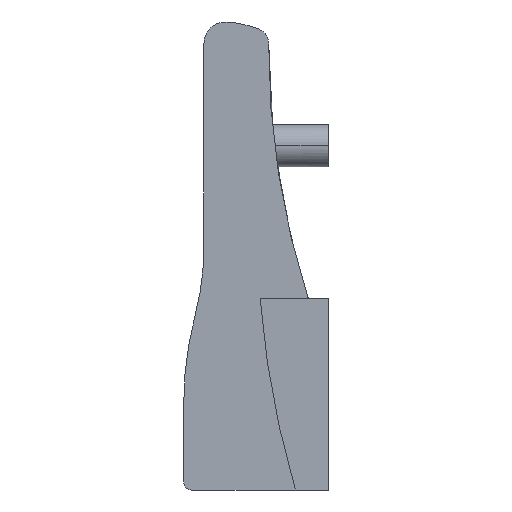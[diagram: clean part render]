
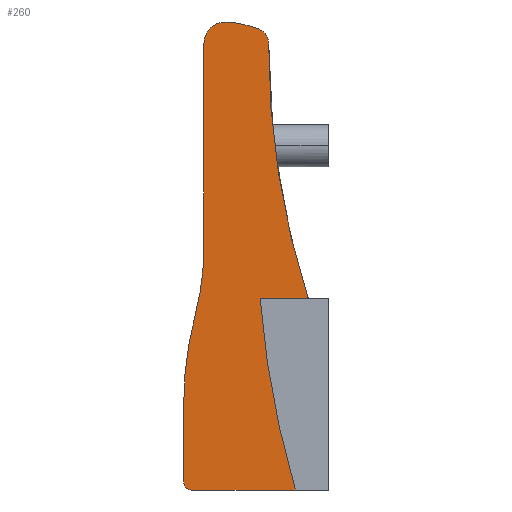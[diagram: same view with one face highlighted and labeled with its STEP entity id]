
A CAD part, front view. The second image highlights one B-rep face of the part: STEP entity #260.
In plain terms, the highlighted planar face has unit normal (0, -1, 0).
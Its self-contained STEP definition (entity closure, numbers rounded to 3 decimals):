
#5 = AXIS2_PLACEMENT_3D ( 'NONE', #1578, #1584, #1585 ) ;
#100 = AXIS2_PLACEMENT_3D ( 'NONE', #1997, #1998, #1999 ) ;
#142 = VECTOR ( 'NONE', #1954, 1000. ) ;
#153 = CIRCLE ( 'NONE', #100, 300. ) ;
#167 = EDGE_CURVE ( 'NONE', #1504, #1443, #1023, .T. ) ;
#169 = EDGE_CURVE ( 'NONE', #1443, #1444, #418, .T. ) ;
#171 = EDGE_CURVE ( 'NONE', #1444, #1442, #1104, .T. ) ;
#173 = EDGE_CURVE ( 'NONE', #1442, #1450, #1115, .T. ) ;
#175 = EDGE_CURVE ( 'NONE', #1450, #1441, #556, .T. ) ;
#176 = EDGE_CURVE ( 'NONE', #1441, #1439, #1112, .T. ) ;
#179 = EDGE_CURVE ( 'NONE', #1439, #1440, #1029, .T. ) ;
#180 = EDGE_CURVE ( 'NONE', #1440, #1512, #1057, .T. ) ;
#189 = EDGE_CURVE ( 'NONE', #1430, #1504, #624, .T. ) ;
#192 = EDGE_CURVE ( 'NONE', #1474, #1430, #1086, .T. ) ;
#227 = EDGE_CURVE ( 'NONE', #1512, #1516, #1078, .T. ) ;
#260 = ADVANCED_FACE ( 'NONE', ( #1581 ), #1582, .T. ) ;
#358 = EDGE_CURVE ( 'NONE', #1467, #1474, #1952, .T. ) ;
#365 = EDGE_CURVE ( 'NONE', #1516, #1467, #153, .T. ) ;
#390 = DIRECTION ( 'NONE',  ( 1., 0., 0. ) ) ;
#391 = DIRECTION ( 'NONE',  ( 1., 0., 0. ) ) ;
#392 = DIRECTION ( 'NONE',  ( 0., -1., 0. ) ) ;
#394 = CARTESIAN_POINT ( 'NONE',  ( 322.2, -2.5, 78.5 ) ) ;
#401 = CARTESIAN_POINT ( 'NONE',  ( -50.5, -2.5, -16.6 ) ) ;
#402 = DIRECTION ( 'NONE',  ( 0., 1., 0. ) ) ;
#409 = DIRECTION ( 'NONE',  ( 1., 0., 0. ) ) ;
#410 = CARTESIAN_POINT ( 'NONE',  ( -40.138, -2.5, 113.472 ) ) ;
#415 = DIRECTION ( 'NONE',  ( -1., 0., 0. ) ) ;
#418 = LINE ( 'NONE', #573, #1051 ) ;
#419 = CARTESIAN_POINT ( 'NONE',  ( -50.5, -2.5, -19.6 ) ) ;
#499 = EDGE_LOOP ( 'NONE', ( #1375, #1277, #1278, #1276, #1169, #1144, #1206, #1219, #1222, #1401, #1373, #1361, #1394 ) ) ;
#524 = DIRECTION ( 'NONE',  ( 1., 0., 0. ) ) ;
#535 = DIRECTION ( 'NONE',  ( 0., 1., 0. ) ) ;
#552 = CARTESIAN_POINT ( 'NONE',  ( -46., -2.5, 70.162 ) ) ;
#555 = DIRECTION ( 'NONE',  ( 0., 0., 1. ) ) ;
#556 = LINE ( 'NONE', #552, #1064 ) ;
#560 = DIRECTION ( 'NONE',  ( 0., 1., 0. ) ) ;
#561 = CARTESIAN_POINT ( 'NONE',  ( 79.3, -2.5, 11.675 ) ) ;
#562 = DIRECTION ( 'NONE',  ( 1., 0., 0. ) ) ;
#564 = CARTESIAN_POINT ( 'NONE',  ( -145., -2.5, 70.162 ) ) ;
#571 = DIRECTION ( 'NONE',  ( 0., 0., 1. ) ) ;
#573 = CARTESIAN_POINT ( 'NONE',  ( -53.5, -2.5, -16.6 ) ) ;
#578 = CARTESIAN_POINT ( 'NONE',  ( -38., -2.5, 145.4 ) ) ;
#591 = DIRECTION ( 'NONE',  ( 0., -1., 0. ) ) ;
#592 = DIRECTION ( 'NONE',  ( 1., 0., 0. ) ) ;
#594 = DIRECTION ( 'NONE',  ( 0., 1., 0. ) ) ;
#611 = CARTESIAN_POINT ( 'NONE',  ( -28.05, -2.5, 145.25 ) ) ;
#612 = DIRECTION ( 'NONE',  ( 0., 1., 0. ) ) ;
#613 = DIRECTION ( 'NONE',  ( 1., 0., 0. ) ) ;
#624 = LINE ( 'NONE', #419, #1123 ) ;
#669 = CARTESIAN_POINT ( 'NONE',  ( -12.208, -2.5, -19.6 ) ) ;
#683 = CARTESIAN_POINT ( 'NONE',  ( -37.465, -2.5, 153.382 ) ) ;
#684 = CARTESIAN_POINT ( 'NONE',  ( -25.917, -2.5, 150.858 ) ) ;
#685 = CARTESIAN_POINT ( 'NONE',  ( -46., -2.5, 145.4 ) ) ;
#686 = CARTESIAN_POINT ( 'NONE',  ( -49.203, -2.5, 45.183 ) ) ;
#687 = CARTESIAN_POINT ( 'NONE',  ( -53.5, -2.5, -16.6 ) ) ;
#688 = CARTESIAN_POINT ( 'NONE',  ( -53.5, -2.5, 11.675 ) ) ;
#694 = CARTESIAN_POINT ( 'NONE',  ( -46., -2.5, 70.162 ) ) ;
#708 = CARTESIAN_POINT ( 'NONE',  ( -7.43, -2.5, 51.28 ) ) ;
#714 = CARTESIAN_POINT ( 'NONE',  ( -25.235, -2.5, 51.28 ) ) ;
#744 = CARTESIAN_POINT ( 'NONE',  ( -50.5, -2.5, -19.6 ) ) ;
#752 = CARTESIAN_POINT ( 'NONE',  ( -22.05, -2.5, 145.25 ) ) ;
#755 = CARTESIAN_POINT ( 'NONE',  ( -22.05, -2.5, 145.222 ) ) ;
#808 = CARTESIAN_POINT ( 'NONE',  ( -28.05, -2.5, 145.25 ) ) ;
#809 = DIRECTION ( 'NONE',  ( 0., 1., 0. ) ) ;
#818 = DIRECTION ( 'NONE',  ( 1., 0., 0. ) ) ;
#1023 = CIRCLE ( 'NONE', #1032, 3. ) ;
#1029 = CIRCLE ( 'NONE', #1036, 40. ) ;
#1032 = AXIS2_PLACEMENT_3D ( 'NONE', #401, #535, #524 ) ;
#1036 = AXIS2_PLACEMENT_3D ( 'NONE', #410, #402, #409 ) ;
#1051 = VECTOR ( 'NONE', #571, 1000. ) ;
#1057 = CIRCLE ( 'NONE', #1059, 6. ) ;
#1059 = AXIS2_PLACEMENT_3D ( 'NONE', #611, #612, #613 ) ;
#1061 = AXIS2_PLACEMENT_3D ( 'NONE', #561, #560, #562 ) ;
#1064 = VECTOR ( 'NONE', #555, 1000. ) ;
#1077 = AXIS2_PLACEMENT_3D ( 'NONE', #564, #591, #592 ) ;
#1078 = CIRCLE ( 'NONE', #1087, 6. ) ;
#1086 = CIRCLE ( 'NONE', #1095, 348.5 ) ;
#1087 = AXIS2_PLACEMENT_3D ( 'NONE', #808, #809, #818 ) ;
#1090 = AXIS2_PLACEMENT_3D ( 'NONE', #578, #594, #390 ) ;
#1095 = AXIS2_PLACEMENT_3D ( 'NONE', #394, #392, #391 ) ;
#1104 = CIRCLE ( 'NONE', #1061, 132.8 ) ;
#1112 = CIRCLE ( 'NONE', #1090, 8. ) ;
#1115 = CIRCLE ( 'NONE', #1077, 99. ) ;
#1123 = VECTOR ( 'NONE', #415, 1000. ) ;
#1144 = ORIENTED_EDGE ( 'NONE', *, *, #179, .F. ) ;
#1169 = ORIENTED_EDGE ( 'NONE', *, *, #180, .F. ) ;
#1206 = ORIENTED_EDGE ( 'NONE', *, *, #176, .F. ) ;
#1219 = ORIENTED_EDGE ( 'NONE', *, *, #175, .F. ) ;
#1222 = ORIENTED_EDGE ( 'NONE', *, *, #173, .F. ) ;
#1276 = ORIENTED_EDGE ( 'NONE', *, *, #227, .F. ) ;
#1277 = ORIENTED_EDGE ( 'NONE', *, *, #358, .F. ) ;
#1278 = ORIENTED_EDGE ( 'NONE', *, *, #365, .F. ) ;
#1361 = ORIENTED_EDGE ( 'NONE', *, *, #167, .F. ) ;
#1373 = ORIENTED_EDGE ( 'NONE', *, *, #169, .F. ) ;
#1375 = ORIENTED_EDGE ( 'NONE', *, *, #192, .F. ) ;
#1394 = ORIENTED_EDGE ( 'NONE', *, *, #189, .F. ) ;
#1401 = ORIENTED_EDGE ( 'NONE', *, *, #171, .F. ) ;
#1430 = VERTEX_POINT ( 'NONE', #669 ) ;
#1439 = VERTEX_POINT ( 'NONE', #683 ) ;
#1440 = VERTEX_POINT ( 'NONE', #684 ) ;
#1441 = VERTEX_POINT ( 'NONE', #685 ) ;
#1442 = VERTEX_POINT ( 'NONE', #686 ) ;
#1443 = VERTEX_POINT ( 'NONE', #687 ) ;
#1444 = VERTEX_POINT ( 'NONE', #688 ) ;
#1450 = VERTEX_POINT ( 'NONE', #694 ) ;
#1467 = VERTEX_POINT ( 'NONE', #708 ) ;
#1474 = VERTEX_POINT ( 'NONE', #714 ) ;
#1504 = VERTEX_POINT ( 'NONE', #744 ) ;
#1512 = VERTEX_POINT ( 'NONE', #752 ) ;
#1516 = VERTEX_POINT ( 'NONE', #755 ) ;
#1578 = CARTESIAN_POINT ( 'NONE',  ( -11.5, -2.5, -19.6 ) ) ;
#1581 = FACE_OUTER_BOUND ( 'NONE', #499, .T. ) ;
#1582 = PLANE ( 'NONE',  #5 ) ;
#1584 = DIRECTION ( 'NONE',  ( 0., -1., 0. ) ) ;
#1585 = DIRECTION ( 'NONE',  ( 1., 0., 0. ) ) ;
#1952 = LINE ( 'NONE', #1953, #142 ) ;
#1953 = CARTESIAN_POINT ( 'NONE',  ( -25.235, -2.5, 51.28 ) ) ;
#1954 = DIRECTION ( 'NONE',  ( -1., 0., 0. ) ) ;
#1997 = CARTESIAN_POINT ( 'NONE',  ( 277.947, -2.5, 143.8 ) ) ;
#1998 = DIRECTION ( 'NONE',  ( 0., -1., 0. ) ) ;
#1999 = DIRECTION ( 'NONE',  ( 1., 0., 0. ) ) ;
